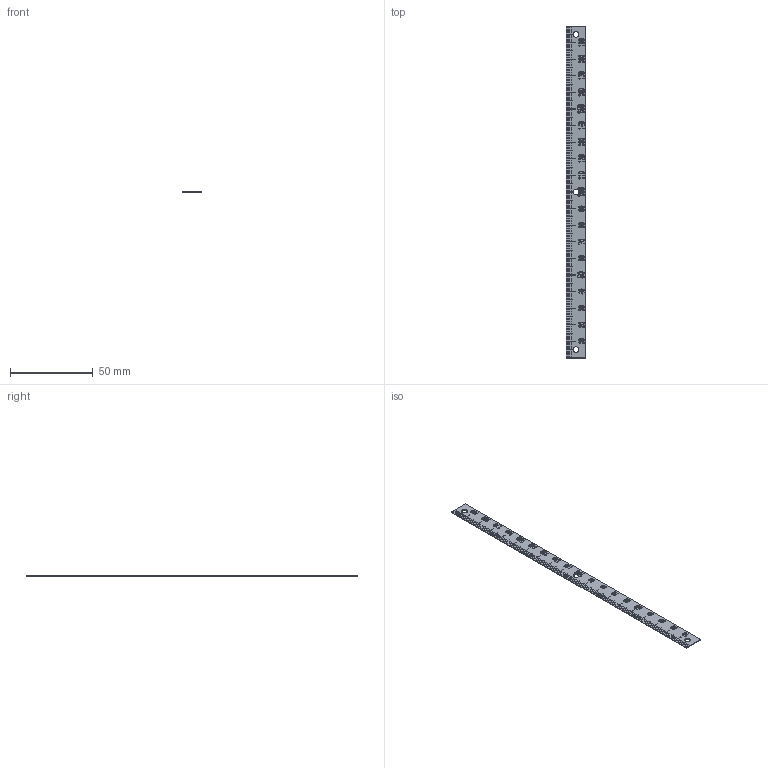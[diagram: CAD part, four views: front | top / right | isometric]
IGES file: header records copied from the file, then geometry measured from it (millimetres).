
Start section: SolidWorks IGES file using analytic representation for surfaces
Global section: file name: Y:\5.更新分\2023年対応\04xx_ALL\E\ES2N-U200R\es2n-u200r.IGS; native system: SolidWorks 2021; preprocessor: SolidWorks 2021; author: ImaoCorp; date: 230615.155437; units: millimetre
Bounding box: 12 x 200 x 0.5 mm (x, y, z)
Surface area: 4990 mm2 (no closed solid volume)
Topology: 0 solids, 0 shells, 1625 faces, 17049 edges, 17049 vertices
Faces by surface type: bspline 1619, revolution 6
